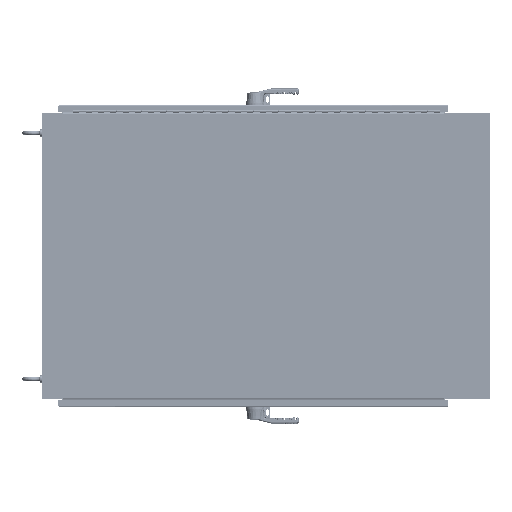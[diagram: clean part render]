
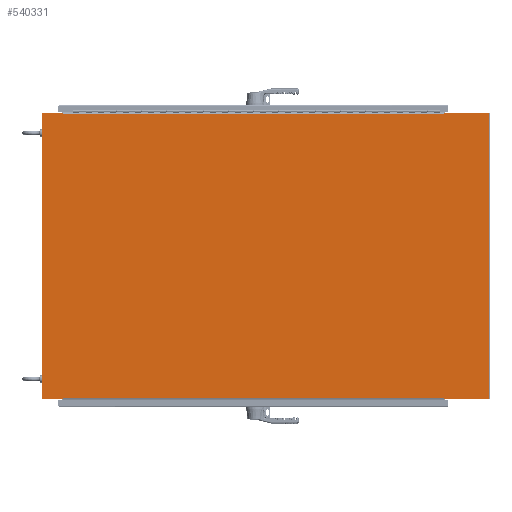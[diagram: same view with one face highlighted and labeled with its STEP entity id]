
A CAD part, left-side view. The second image highlights one B-rep face of the part: STEP entity #540331.
In plain terms, the highlighted planar face has unit normal (-1, 0, 0).
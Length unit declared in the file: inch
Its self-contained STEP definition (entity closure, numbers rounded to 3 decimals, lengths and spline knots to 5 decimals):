
#1126 = CARTESIAN_POINT ( 'NONE',  ( 0., -28.656, 0.114 ) ) ;
#17656 = CARTESIAN_POINT ( 'NONE',  ( 0., 32.656, 0. ) ) ;
#30143 = DIRECTION ( 'NONE',  ( 0., 1., 0. ) ) ;
#31088 = EDGE_CURVE ( 'NONE', #219135, #666058, #656384, .T. ) ;
#31261 = EDGE_CURVE ( 'NONE', #649917, #624040, #241441, .T. ) ;
#37782 = EDGE_CURVE ( 'NONE', #219135, #51893, #212656, .T. ) ;
#37879 = EDGE_CURVE ( 'NONE', #587838, #624040, #315830, .T. ) ;
#41667 = DIRECTION ( 'NONE',  ( 0., -1., 0. ) ) ;
#51893 = VERTEX_POINT ( 'NONE', #80788 ) ;
#66068 = VECTOR ( 'NONE', #492974, 39.37008 ) ;
#80788 = CARTESIAN_POINT ( 'NONE',  ( 0., 35.91685, 45.948 ) ) ;
#85195 = CARTESIAN_POINT ( 'NONE',  ( 0., 32.656, 45.948 ) ) ;
#95567 = VECTOR ( 'NONE', #271424, 39.37008 ) ;
#95945 = CARTESIAN_POINT ( 'NONE',  ( 0., -35.91685, 45.948 ) ) ;
#107215 = CARTESIAN_POINT ( 'NONE',  ( 0., 32.656, 0.114 ) ) ;
#125257 = ORIENTED_EDGE ( 'NONE', *, *, #701113, .T. ) ;
#128495 = DIRECTION ( 'NONE',  ( 0., 0., -1. ) ) ;
#137199 = DIRECTION ( 'NONE',  ( 0., 1., 0. ) ) ;
#155927 = VECTOR ( 'NONE', #128495, 39.37008 ) ;
#172959 = CARTESIAN_POINT ( 'NONE',  ( 0., -35.91685, 0. ) ) ;
#177807 = VERTEX_POINT ( 'NONE', #95945 ) ;
#199998 = EDGE_CURVE ( 'NONE', #671010, #408975, #348843, .T. ) ;
#212656 = LINE ( 'NONE', #278324, #66068 ) ;
#213398 = LINE ( 'NONE', #354179, #239077 ) ;
#216091 = ORIENTED_EDGE ( 'NONE', *, *, #281680, .F. ) ;
#219135 = VERTEX_POINT ( 'NONE', #673547 ) ;
#223954 = ORIENTED_EDGE ( 'NONE', *, *, #31261, .F. ) ;
#226012 = DIRECTION ( 'NONE',  ( 0., 0., -1. ) ) ;
#229301 = VECTOR ( 'NONE', #283108, 39.37008 ) ;
#239077 = VECTOR ( 'NONE', #137199, 39.37008 ) ;
#241334 = CARTESIAN_POINT ( 'NONE',  ( 0., -28.656, 45.948 ) ) ;
#241441 = LINE ( 'NONE', #580994, #509126 ) ;
#245798 = EDGE_CURVE ( 'NONE', #621302, #666058, #526764, .T. ) ;
#246757 = ORIENTED_EDGE ( 'NONE', *, *, #517965, .T. ) ;
#261051 = CARTESIAN_POINT ( 'NONE',  ( 0., 35.91685, 0.114 ) ) ;
#271424 = DIRECTION ( 'NONE',  ( 0., 0., 1. ) ) ;
#278324 = CARTESIAN_POINT ( 'NONE',  ( 0., 35.91685, 0. ) ) ;
#281495 = DIRECTION ( 'NONE',  ( 0., 0., -1. ) ) ;
#281680 = EDGE_CURVE ( 'NONE', #587838, #592738, #449122, .T. ) ;
#283108 = DIRECTION ( 'NONE',  ( 0., 1., 0. ) ) ;
#285635 = VECTOR ( 'NONE', #287789, 39.37008 ) ;
#287789 = DIRECTION ( 'NONE',  ( 0., -1., 0. ) ) ;
#290861 = VECTOR ( 'NONE', #429267, 39.37008 ) ;
#300136 = CARTESIAN_POINT ( 'NONE',  ( 0., 35.91685, 45.948 ) ) ;
#311217 = DIRECTION ( 'NONE',  ( 0., 0., 1. ) ) ;
#312566 = ORIENTED_EDGE ( 'NONE', *, *, #31088, .T. ) ;
#315830 = LINE ( 'NONE', #500046, #229301 ) ;
#315982 = CARTESIAN_POINT ( 'NONE',  ( 0., -28.656, 0. ) ) ;
#319606 = VECTOR ( 'NONE', #41667, 39.37008 ) ;
#325261 = CARTESIAN_POINT ( 'NONE',  ( 0., 32.656, 0.207 ) ) ;
#328890 = EDGE_CURVE ( 'NONE', #177807, #490500, #599643, .T. ) ;
#335011 = EDGE_LOOP ( 'NONE', ( #616625, #645229, #585524, #125257, #502695, #246757, #216091, #500785, #223954, #580444, #611853, #312566 ) ) ;
#348843 = LINE ( 'NONE', #315982, #494740 ) ;
#354179 = CARTESIAN_POINT ( 'NONE',  ( 0., -35.91685, 45.948 ) ) ;
#363990 = DIRECTION ( 'NONE',  ( 0., 0., -1. ) ) ;
#369067 = CARTESIAN_POINT ( 'NONE',  ( 0., -35.91685, 0.114 ) ) ;
#377274 = LINE ( 'NONE', #369067, #290861 ) ;
#388103 = VECTOR ( 'NONE', #30143, 39.37008 ) ;
#408975 = VERTEX_POINT ( 'NONE', #639970 ) ;
#429267 = DIRECTION ( 'NONE',  ( 0., -1., 0. ) ) ;
#449122 = LINE ( 'NONE', #601584, #95567 ) ;
#449572 = LINE ( 'NONE', #625100, #285635 ) ;
#453247 = CARTESIAN_POINT ( 'NONE',  ( 0., -35.91685, 0.114 ) ) ;
#490500 = VERTEX_POINT ( 'NONE', #453247 ) ;
#492974 = DIRECTION ( 'NONE',  ( 0., 0., 1. ) ) ;
#494740 = VECTOR ( 'NONE', #311217, 39.37008 ) ;
#500046 = CARTESIAN_POINT ( 'NONE',  ( 0., -28.656, 45.855 ) ) ;
#500785 = ORIENTED_EDGE ( 'NONE', *, *, #37879, .T. ) ;
#502695 = ORIENTED_EDGE ( 'NONE', *, *, #328890, .F. ) ;
#504934 = VECTOR ( 'NONE', #226012, 39.37008 ) ;
#508517 = LINE ( 'NONE', #300136, #388103 ) ;
#509126 = VECTOR ( 'NONE', #363990, 39.37008 ) ;
#517965 = EDGE_CURVE ( 'NONE', #177807, #592738, #213398, .T. ) ;
#520195 = CARTESIAN_POINT ( 'NONE',  ( 0., -28.656, 45.855 ) ) ;
#526764 = LINE ( 'NONE', #17656, #155927 ) ;
#540331 = ADVANCED_FACE ( 'NONE', ( #699932 ), #715331, .F. ) ;
#543633 = EDGE_CURVE ( 'NONE', #649917, #51893, #508517, .T. ) ;
#549338 = EDGE_CURVE ( 'NONE', #621302, #408975, #449572, .T. ) ;
#551518 = CARTESIAN_POINT ( 'NONE',  ( 0., 35.91685, 0. ) ) ;
#580444 = ORIENTED_EDGE ( 'NONE', *, *, #543633, .T. ) ;
#580994 = CARTESIAN_POINT ( 'NONE',  ( 0., 32.656, 0. ) ) ;
#585524 = ORIENTED_EDGE ( 'NONE', *, *, #199998, .F. ) ;
#587838 = VERTEX_POINT ( 'NONE', #520195 ) ;
#592738 = VERTEX_POINT ( 'NONE', #241334 ) ;
#599643 = LINE ( 'NONE', #172959, #504934 ) ;
#601584 = CARTESIAN_POINT ( 'NONE',  ( 0., -28.656, 0. ) ) ;
#604380 = CARTESIAN_POINT ( 'NONE',  ( 0., 32.656, 45.855 ) ) ;
#611853 = ORIENTED_EDGE ( 'NONE', *, *, #37782, .F. ) ;
#616625 = ORIENTED_EDGE ( 'NONE', *, *, #245798, .F. ) ;
#621302 = VERTEX_POINT ( 'NONE', #325261 ) ;
#624040 = VERTEX_POINT ( 'NONE', #604380 ) ;
#625100 = CARTESIAN_POINT ( 'NONE',  ( 0., 32.656, 0.207 ) ) ;
#639970 = CARTESIAN_POINT ( 'NONE',  ( 0., -28.656, 0.207 ) ) ;
#645229 = ORIENTED_EDGE ( 'NONE', *, *, #549338, .T. ) ;
#649917 = VERTEX_POINT ( 'NONE', #85195 ) ;
#656384 = LINE ( 'NONE', #261051, #319606 ) ;
#666058 = VERTEX_POINT ( 'NONE', #107215 ) ;
#667099 = DIRECTION ( 'NONE',  ( 1., 0., 0. ) ) ;
#671010 = VERTEX_POINT ( 'NONE', #1126 ) ;
#673547 = CARTESIAN_POINT ( 'NONE',  ( 0., 35.91685, 0.114 ) ) ;
#681780 = AXIS2_PLACEMENT_3D ( 'NONE', #551518, #667099, #281495 ) ;
#699932 = FACE_OUTER_BOUND ( 'NONE', #335011, .T. ) ;
#701113 = EDGE_CURVE ( 'NONE', #671010, #490500, #377274, .T. ) ;
#715331 = PLANE ( 'NONE',  #681780 ) ;
